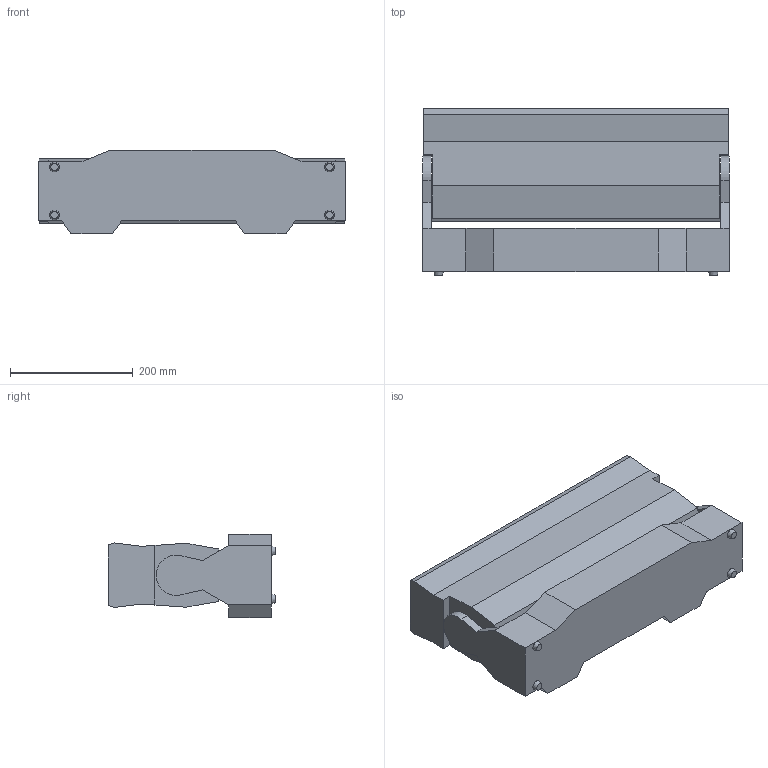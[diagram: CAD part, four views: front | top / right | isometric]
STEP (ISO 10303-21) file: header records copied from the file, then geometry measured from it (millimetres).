
FILE_DESCRIPTION(/* description */ (''),/* implementation_level */ '2;1');
FILE_NAME(/* name */ 'D:\dgooch\Documents\CADENG\PRO\COLORado PXL 8\0\COLORado PXL 8_0.stp',/* time_stamp */ '2021-04-21T16:24:20-04:00',/* author */ ('dgooch'),/* organization */ (''),/* preprocessor_version */ 'ST-DEVELOPER v18.1',/* originating_system */ 'Autodesk Inventor 2021',/* authorisation */ '');
FILE_SCHEMA (('AUTOMOTIVE_DESIGN { 1 0 10303 214 3 1 1 }'));
Length unit declared in the file: millimetre
Products named in the file (3): COLORado PXL 8; Base; Head
Assembly tree (2 placements, depth 2):
  COLORado PXL 8
    Base
    Head
Bounding box: 499.83 x 273 x 135.5 mm (x, y, z)
Volume: 12835599.4 mm3; surface area: 539718.4 mm2
Topology: 2 solids, 2 shells, 54 faces, 138 edges, 92 vertices
Faces by surface type: plane 47, cone 4, cylinder 3
Entity records: 1739 total; most frequent: CARTESIAN_POINT 289, ORIENTED_EDGE 276, DIRECTION 270, EDGE_CURVE 138, LINE 124, VECTOR 124, VERTEX_POINT 92, AXIS2_PLACEMENT_3D 73
